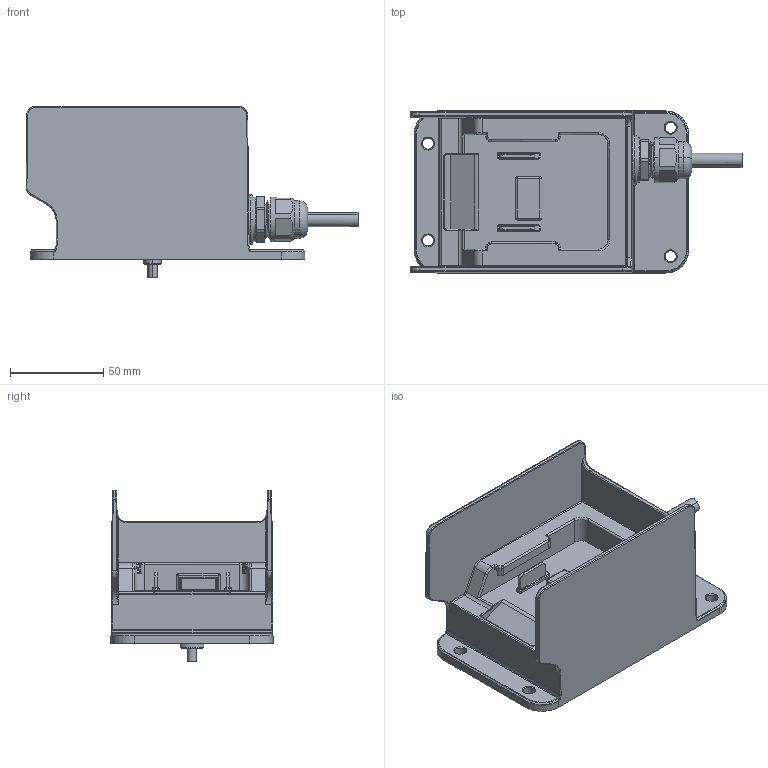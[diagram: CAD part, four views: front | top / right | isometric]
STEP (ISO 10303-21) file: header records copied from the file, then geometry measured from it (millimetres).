
FILE_DESCRIPTION (( 'STEP AP203' ), '1' );
FILE_NAME ('3D_TSB2.STEP', '2021-07-06T10:44:47', ( '' ), ( '' ), 'SwSTEP 2.0', 'SolidWorks 2015', '' );
FILE_SCHEMA (( 'CONFIG_CONTROL_DESIGN' ));
Length unit declared in the file: millimetre
Products named in the file (9): TSB2-O倰虐; TC26_O型圈; 萇喀釱-02-B; 3D_TSB2; 萇喀釱-02-A; TRF2_SR; TC21_1017_2奻屳-NEW; 4X15_墊片自攻螺絲; M16滅阨堤?螹
Assembly tree (7 placements, depth 2):
  3D_TSB2
    萇喀釱-02-A
    萇喀釱-02-B
    TRF2_SR
    TSB2-O倰虐
    M16滅阨堤?螹
    4X15_墊片自攻螺絲
    TC26_O型圈
  TC21_1017_2奻屳-NEW
Bounding box: 178.16 x 87 x 92 mm (x, y, z)
Volume: 184038.4 mm3; surface area: 136513 mm2
Topology: 17 solids, 17 shells, 1701 faces, 4398 edges, 2756 vertices
Faces by surface type: cylinder 642, plane 626, bspline 187, cone 129, torus 109, sphere 8
Entity records: 72579 total; most frequent: CARTESIAN_POINT 32769, ORIENTED_EDGE 8766, DIRECTION 7407, EDGE_CURVE 4383, VERTEX_POINT 2756, AXIS2_PLACEMENT_3D 2653, VECTOR 2101, LINE 2101
